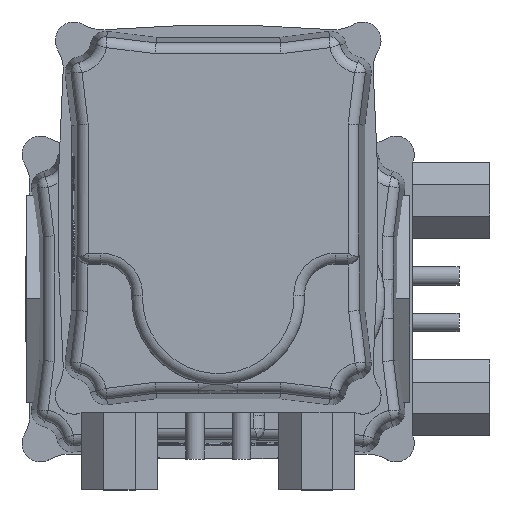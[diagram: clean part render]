
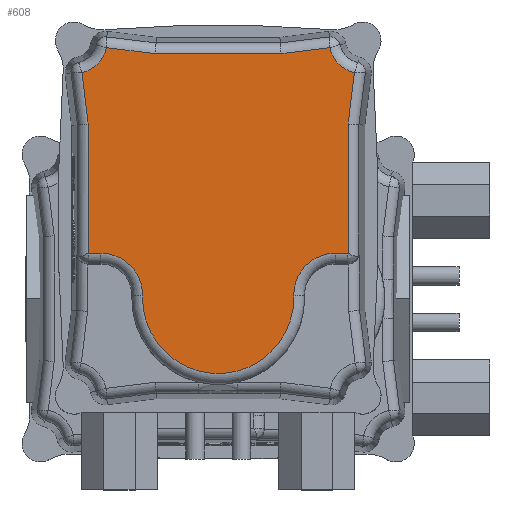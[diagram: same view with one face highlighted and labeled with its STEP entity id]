
A CAD part, top view. The second image highlights one B-rep face of the part: STEP entity #608.
In plain terms, the highlighted planar face has unit normal (0, 0, 1).
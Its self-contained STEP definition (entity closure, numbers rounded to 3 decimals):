
#608 = ADVANCED_FACE( '', ( #1747 ), #1748, .T. );
#1747 = FACE_OUTER_BOUND( '', #3920, .T. );
#1748 = PLANE( '', #3921 );
#3920 = EDGE_LOOP( '', ( #11648, #11649, #11650, #11651, #11652, #11653, #11654, #11655, #11656, #11657, #11658, #11659, #11660, #11661, #11662, #11663 ) );
#3921 = AXIS2_PLACEMENT_3D( '', #11664, #11665, #11666 );
#11648 = ORIENTED_EDGE( '', *, *, #16685, .T. );
#11649 = ORIENTED_EDGE( '', *, *, #16686, .T. );
#11650 = ORIENTED_EDGE( '', *, *, #16687, .T. );
#11651 = ORIENTED_EDGE( '', *, *, #16688, .T. );
#11652 = ORIENTED_EDGE( '', *, *, #16689, .T. );
#11653 = ORIENTED_EDGE( '', *, *, #16690, .T. );
#11654 = ORIENTED_EDGE( '', *, *, #16691, .T. );
#11655 = ORIENTED_EDGE( '', *, *, #16692, .T. );
#11656 = ORIENTED_EDGE( '', *, *, #16693, .T. );
#11657 = ORIENTED_EDGE( '', *, *, #16694, .T. );
#11658 = ORIENTED_EDGE( '', *, *, #16695, .T. );
#11659 = ORIENTED_EDGE( '', *, *, #16696, .T. );
#11660 = ORIENTED_EDGE( '', *, *, #16697, .T. );
#11661 = ORIENTED_EDGE( '', *, *, #16698, .T. );
#11662 = ORIENTED_EDGE( '', *, *, #16699, .T. );
#11663 = ORIENTED_EDGE( '', *, *, #16700, .T. );
#11664 = CARTESIAN_POINT( '', ( 47.227, -44.578, 84. ) );
#11665 = DIRECTION( '', ( 0., 0., 1. ) );
#11666 = DIRECTION( '', ( 1., 0., 0. ) );
#16685 = EDGE_CURVE( '', #18586, #18587, #18588, .T. );
#16686 = EDGE_CURVE( '', #18587, #18589, #18590, .T. );
#16687 = EDGE_CURVE( '', #18589, #18582, #18591, .F. );
#16688 = EDGE_CURVE( '', #18582, #18592, #18593, .T. );
#16689 = EDGE_CURVE( '', #18592, #18594, #18595, .T. );
#16690 = EDGE_CURVE( '', #18594, #18596, #18597, .T. );
#16691 = EDGE_CURVE( '', #18596, #18598, #18599, .T. );
#16692 = EDGE_CURVE( '', #18598, #18600, #18601, .F. );
#16693 = EDGE_CURVE( '', #18600, #18602, #18603, .T. );
#16694 = EDGE_CURVE( '', #18602, #18604, #18605, .F. );
#16695 = EDGE_CURVE( '', #18604, #18606, #18607, .T. );
#16696 = EDGE_CURVE( '', #18606, #18608, #18609, .T. );
#16697 = EDGE_CURVE( '', #18608, #18610, #18611, .T. );
#16698 = EDGE_CURVE( '', #18610, #18612, #18613, .T. );
#16699 = EDGE_CURVE( '', #18612, #18614, #18615, .F. );
#16700 = EDGE_CURVE( '', #18614, #18586, #18616, .T. );
#18582 = VERTEX_POINT( '', #21375 );
#18586 = VERTEX_POINT( '', #21419 );
#18587 = VERTEX_POINT( '', #21420 );
#18588 = LINE( '', #21421, #21422 );
#18589 = VERTEX_POINT( '', #21423 );
#18590 = LINE( '', #21424, #21425 );
#18591 = CIRCLE( '', #21426, 10.907 );
#18592 = VERTEX_POINT( '', #21427 );
#18593 = LINE( '', #21428, #21429 );
#18594 = VERTEX_POINT( '', #21430 );
#18595 = LINE( '', #21431, #21432 );
#18596 = VERTEX_POINT( '', #21433 );
#18597 = CIRCLE( '', #21434, 0.5 );
#18598 = VERTEX_POINT( '', #21435 );
#18599 = LINE( '', #21436, #21437 );
#18600 = VERTEX_POINT( '', #21438 );
#18601 = CIRCLE( '', #21439, 13.5 );
#18602 = VERTEX_POINT( '', #21440 );
#18603 = CIRCLE( '', #21441, 24.5 );
#18604 = VERTEX_POINT( '', #21442 );
#18605 = CIRCLE( '', #21443, 13.5 );
#18606 = VERTEX_POINT( '', #21444 );
#18607 = LINE( '', #21445, #21446 );
#18608 = VERTEX_POINT( '', #21447 );
#18609 = CIRCLE( '', #21448, 0.5 );
#18610 = VERTEX_POINT( '', #21449 );
#18611 = LINE( '', #21450, #21451 );
#18612 = VERTEX_POINT( '', #21452 );
#18613 = LINE( '', #21453, #21454 );
#18614 = VERTEX_POINT( '', #21455 );
#18615 = CIRCLE( '', #21456, 10.907 );
#18616 = LINE( '', #21457, #21458 );
#21375 = CARTESIAN_POINT( '', ( -46.913, -44.129, 84. ) );
#21419 = CARTESIAN_POINT( '', ( -53.093, 20.331, 84. ) );
#21420 = CARTESIAN_POINT( '', ( -53.093, -20.331, 84. ) );
#21421 = CARTESIAN_POINT( '', ( -53.093, -44.578, 84. ) );
#21422 = VECTOR( '', #29651, 1000. );
#21423 = CARTESIAN_POINT( '', ( -55.033, -36.126, 84. ) );
#21424 = CARTESIAN_POINT( '', ( -54.536, -32.083, 84. ) );
#21425 = VECTOR( '', #29652, 1000. );
#21426 = AXIS2_PLACEMENT_3D( '', #29653, #29654, #29655 );
#21427 = CARTESIAN_POINT( '', ( -30.331, -42.093, 84. ) );
#21428 = CARTESIAN_POINT( '', ( 45.775, -32.749, 84. ) );
#21429 = VECTOR( '', #29656, 1000. );
#21430 = CARTESIAN_POINT( '', ( 11.491, -42.093, 84. ) );
#21431 = CARTESIAN_POINT( '', ( 47.227, -42.093, 84. ) );
#21432 = VECTOR( '', #29657, 1000. );
#21433 = CARTESIAN_POINT( '', ( 11.5, -42., 84. ) );
#21434 = AXIS2_PLACEMENT_3D( '', #29658, #29659, #29660 );
#21435 = CARTESIAN_POINT( '', ( 11.5, -37.987, 84. ) );
#21436 = CARTESIAN_POINT( '', ( 11.5, -44.578, 84. ) );
#21437 = VECTOR( '', #29661, 1000. );
#21438 = CARTESIAN_POINT( '', ( 25.355, -24.492, 84. ) );
#21439 = AXIS2_PLACEMENT_3D( '', #29662, #29663, #29664 );
#21440 = CARTESIAN_POINT( '', ( 25.355, 24.492, 84. ) );
#21441 = AXIS2_PLACEMENT_3D( '', #29665, #29666, #29667 );
#21442 = CARTESIAN_POINT( '', ( 11.5, 37.987, 84. ) );
#21443 = AXIS2_PLACEMENT_3D( '', #29668, #29669, #29670 );
#21444 = CARTESIAN_POINT( '', ( 11.5, 42., 84. ) );
#21445 = CARTESIAN_POINT( '', ( 11.5, -44.578, 84. ) );
#21446 = VECTOR( '', #29671, 1000. );
#21447 = CARTESIAN_POINT( '', ( 11.491, 42.093, 84. ) );
#21448 = AXIS2_PLACEMENT_3D( '', #29672, #29673, #29674 );
#21449 = CARTESIAN_POINT( '', ( -30.331, 42.093, 84. ) );
#21450 = CARTESIAN_POINT( '', ( 47.227, 42.093, 84. ) );
#21451 = VECTOR( '', #29675, 1000. );
#21452 = CARTESIAN_POINT( '', ( -46.913, 44.129, 84. ) );
#21453 = CARTESIAN_POINT( '', ( 56.559, 31.425, 84. ) );
#21454 = VECTOR( '', #29676, 1000. );
#21455 = CARTESIAN_POINT( '', ( -55.033, 36.126, 84. ) );
#21456 = AXIS2_PLACEMENT_3D( '', #29677, #29678, #29679 );
#21457 = CARTESIAN_POINT( '', ( -43.752, -55.749, 84. ) );
#21458 = VECTOR( '', #29680, 1000. );
#29651 = DIRECTION( '', ( 0., -1., 0. ) );
#29652 = DIRECTION( '', ( -0.122, -0.993, 0. ) );
#29653 = CARTESIAN_POINT( '', ( -57.5, -46.75, 84. ) );
#29654 = DIRECTION( '', ( 0., 0., 1. ) );
#29655 = DIRECTION( '', ( 1., 0., 0. ) );
#29656 = DIRECTION( '', ( 0.993, 0.122, 0. ) );
#29657 = DIRECTION( '', ( 1., 0., 0. ) );
#29658 = CARTESIAN_POINT( '', ( 11., -42., 84. ) );
#29659 = DIRECTION( '', ( 0., 0., 1. ) );
#29660 = DIRECTION( '', ( 1., 0., 0. ) );
#29661 = DIRECTION( '', ( 0., 1., 0. ) );
#29662 = CARTESIAN_POINT( '', ( 25., -37.987, 84. ) );
#29663 = DIRECTION( '', ( 0., 0., 1. ) );
#29664 = DIRECTION( '', ( 1., 0., 0. ) );
#29665 = CARTESIAN_POINT( '', ( 26., 0., 84. ) );
#29666 = DIRECTION( '', ( 0., 0., 1. ) );
#29667 = DIRECTION( '', ( 1., 0., 0. ) );
#29668 = CARTESIAN_POINT( '', ( 25., 37.987, 84. ) );
#29669 = DIRECTION( '', ( 0., 0., 1. ) );
#29670 = DIRECTION( '', ( 1., 0., 0. ) );
#29671 = DIRECTION( '', ( 0., 1., 0. ) );
#29672 = CARTESIAN_POINT( '', ( 11., 42., 84. ) );
#29673 = DIRECTION( '', ( 0., 0., 1. ) );
#29674 = DIRECTION( '', ( 1., 0., 0. ) );
#29675 = DIRECTION( '', ( -1., 0., 0. ) );
#29676 = DIRECTION( '', ( -0.993, 0.122, 0. ) );
#29677 = CARTESIAN_POINT( '', ( -57.5, 46.75, 84. ) );
#29678 = DIRECTION( '', ( 0., 0., 1. ) );
#29679 = DIRECTION( '', ( 1., 0., 0. ) );
#29680 = DIRECTION( '', ( 0.122, -0.993, 0. ) );
